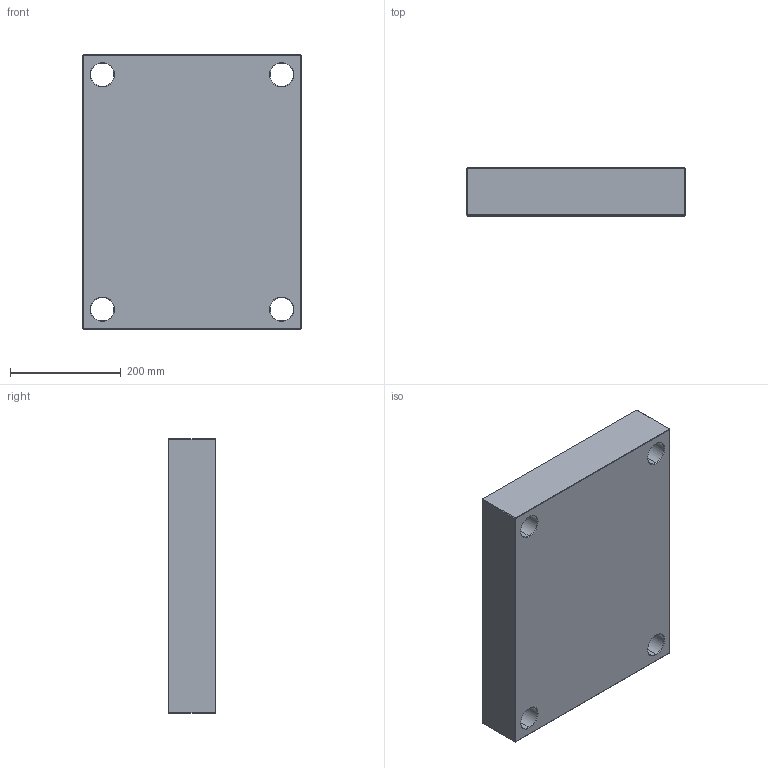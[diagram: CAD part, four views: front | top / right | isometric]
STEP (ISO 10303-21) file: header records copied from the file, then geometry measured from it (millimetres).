
FILE_DESCRIPTION (( 'STEP AP214' ), '1' );
FILE_NAME ('PC-396x496x86.STEP', '2020-04-21T17:24:13', ( 'August' ), ( '' ), 'SwSTEP 2.0', 'SolidWorks 2018', '' );
FILE_SCHEMA (( 'AUTOMOTIVE_DESIGN' ));
Length unit declared in the file: millimetre
Products named in the file (1): PC-396x496x86
Bounding box: 396 x 86 x 496 mm (x, y, z)
Volume: 16381760.7 mm3; surface area: 583004.5 mm2
Topology: 1 solids, 1 shells, 82 faces, 168 edges, 96 vertices
Faces by surface type: plane 34, cone 24, cylinder 24
Entity records: 2170 total; most frequent: DIRECTION 406, CARTESIAN_POINT 347, ORIENTED_EDGE 336, EDGE_CURVE 168, AXIS2_PLACEMENT_3D 155, EDGE_LOOP 98, LINE 96, VERTEX_POINT 96
